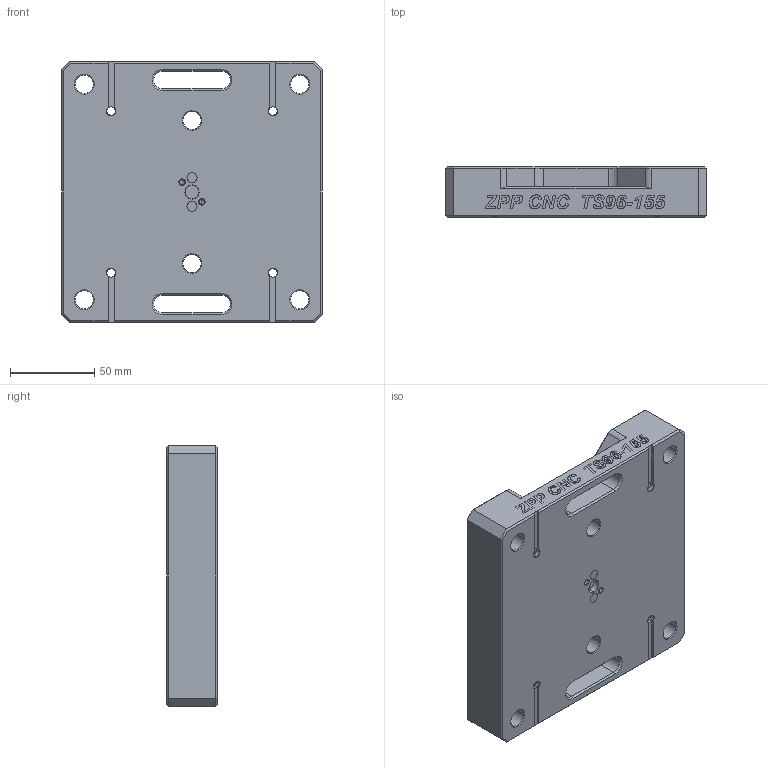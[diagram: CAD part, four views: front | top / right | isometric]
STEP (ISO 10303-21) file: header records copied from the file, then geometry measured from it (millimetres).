
FILE_DESCRIPTION((''),'2;1');
FILE_NAME('PRT0002','2024-05-14T14:47:30',('XF'),(''),'CREO PARAMETRIC BY PTC INC, 2022073','CREO PARAMETRIC BY PTC INC, 2022073','');
FILE_SCHEMA(('CONFIG_CONTROL_DESIGN'));
Length unit declared in the file: millimetre
Products named in the file (1): PRT0002
Bounding box: 155 x 30 x 155 mm (x, y, z)
Volume: 608740.4 mm3; surface area: 82039 mm2
Topology: 1 solids, 5 shells, 858 faces, 2384 edges, 1584 vertices
Faces by surface type: extrusion 362, plane 288, cylinder 112, cone 88, torus 8
Entity records: 29185 total; most frequent: CARTESIAN_POINT 8199, ORIENTED_EDGE 4728, DIRECTION 3410, EDGE_CURVE 2372, VERTEX_POINT 1584, VECTOR 1564, LINE 1202, B_SPLINE_CURVE_WITH_KNOTS 1106
